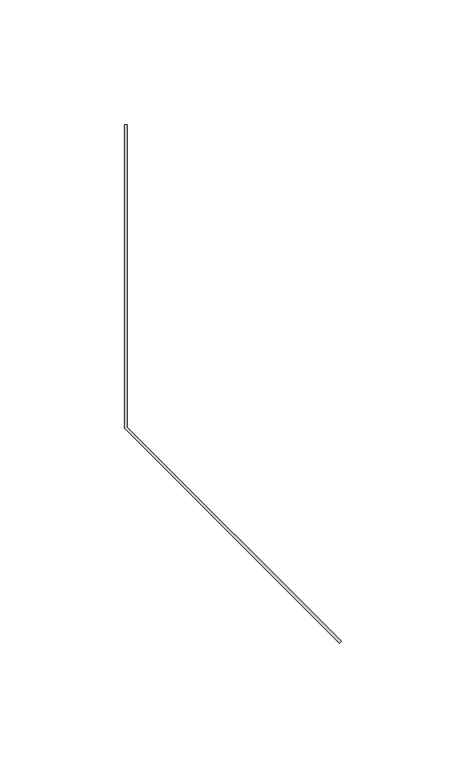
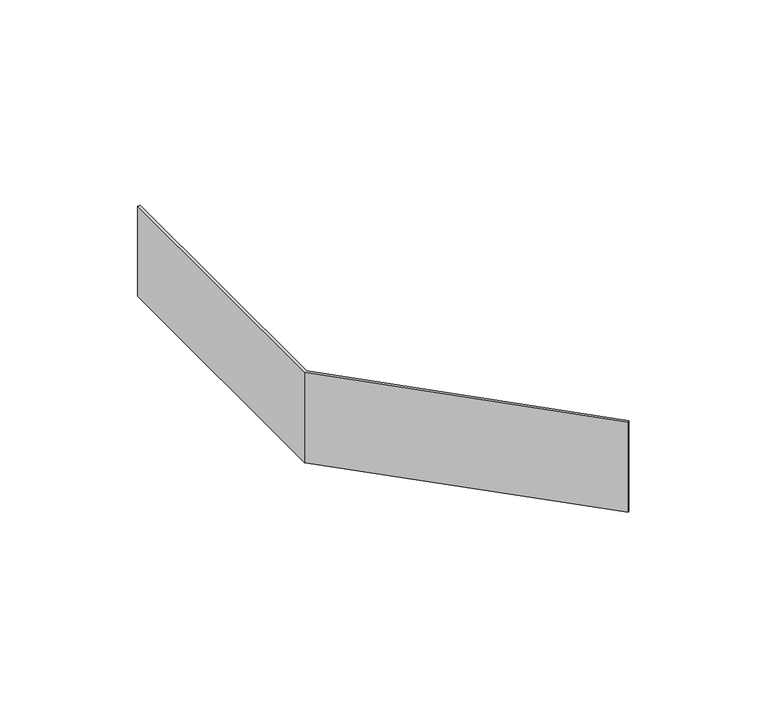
"""IFC4 building model written with IfcOpenShell, lengths in millimetres: proxy geometry, JUBPE-B_Juction_H60-Basorplast : Basorplast JUBPE-B 60."""

import ifcopenshell
import ifcopenshell.guid

model = None  # the IFC model being written
_history = None  # IfcOwnerHistory: only IFC2X3 demands one
_inside = {}  # id of a spatial element -> (the spatial element, [elements in it])
_under = {}  # id of a project, library or spatial element -> (it, [spatial elements below it])
_declared = {}  # id of a project -> (the project, [libraries it declares])
_typed = {}  # id of a type object -> (the type object, [elements of that type])
_made_of = {}  # id of a material, layer set ... -> (it, [elements and type objects made of it])


def new_model(schema):
    """Start an empty IFC model of exactly this schema.

    Asked for "IFC4X3", IfcOpenShell would pick the latest addendum, in which some entities
    have other attributes; the version numbers below select the first issue.
    IFC2X3 requires an IfcOwnerHistory on every rooted entity: one is made here for all.
    """
    global model, _history
    if schema == "IFC4X3":
        model = ifcopenshell.file(schema_version=(4, 3, 0, 0))
    else:
        model = ifcopenshell.file(schema=schema)
    _inside.clear()
    _under.clear()
    _declared.clear()
    _typed.clear()
    _made_of.clear()
    _history = None
    if model.schema == "IFC2X3":
        org = make("IfcOrganization", Name="unknown")
        user = make(
            "IfcPersonAndOrganization",
            ThePerson=make("IfcPerson", FamilyName="unknown"),
            TheOrganization=org,
        )
        app = make(
            "IfcApplication",
            ApplicationDeveloper=org,
            Version="unknown",
            ApplicationFullName="unknown",
            ApplicationIdentifier="unknown",
        )
        _history = make(
            "IfcOwnerHistory",
            OwningUser=user,
            OwningApplication=app,
            ChangeAction="ADDED",
            CreationDate=0,
        )
    return model


def make(cls, **values):
    """One entity of the class cls with the attributes given. An attribute that is None is left unset."""
    return model.create_entity(
        cls, **{name: value for name, value in values.items() if value is not None}
    )


def rooted(cls, **values):
    """An entity with a GlobalId (a new one), such as an element, a storey or a relation."""
    return make(cls, GlobalId=ifcopenshell.guid.new(), OwnerHistory=_history, **values)


def si_unit(unit_type, name, prefix=None):
    """IfcSIUnit, for example si_unit("LENGTHUNIT", "METRE", prefix="MILLI")."""
    return make("IfcSIUnit", UnitType=unit_type, Prefix=prefix, Name=name)


def assignment(units):
    """IfcUnitAssignment: the units of a project."""
    return None if units is None else make("IfcUnitAssignment", Units=units)


def point(xyz):
    """IfcCartesianPoint."""
    return None if xyz is None else make("IfcCartesianPoint", Coordinates=xyz)


def direction(xyz):
    """IfcDirection."""
    return None if xyz is None else make("IfcDirection", DirectionRatios=xyz)


def frame(location, z_axis=None, x_axis=None):
    """IfcAxis2Placement3D, a coordinate frame: its origin and axes. An axis left out is left unset."""
    return make(
        "IfcAxis2Placement3D",
        Location=point(location),
        Axis=direction(z_axis),
        RefDirection=direction(x_axis),
    )


def origin():
    """The frame at (0, 0, 0) with its axes left unset."""
    return frame((0.0, 0.0, 0.0))


def origin_with_axes():
    """The frame at (0, 0, 0) with the z axis (0, 0, 1) and the x axis (1, 0, 0) written out."""
    return frame((0.0, 0.0, 0.0), z_axis=(0.0, 0.0, 1.0), x_axis=(1.0, 0.0, 0.0))


def place(relative_to, where):
    """IfcLocalPlacement: puts the frame where relative to a parent placement (None: the world)."""
    return make(
        "IfcLocalPlacement", PlacementRelTo=relative_to, RelativePlacement=where
    )


def context(
    kind, dimensions, precision=None, world=None, true_north=None, identifier=None
):
    """IfcGeometricRepresentationContext, for example the 3D "Model" context."""
    return make(
        "IfcGeometricRepresentationContext",
        ContextIdentifier=identifier,
        ContextType=kind,
        CoordinateSpaceDimension=dimensions,
        Precision=precision,
        WorldCoordinateSystem=world,
        TrueNorth=true_north,
    )


def project(units=None, contexts=None):
    """IfcProject with its units and contexts."""
    return rooted(
        "IfcProject",
        Name="project",
        RepresentationContexts=contexts,
        UnitsInContext=assignment(units),
    )


def spatial(cls, under=None, at=None, **own):
    """A site, building, storey or space (cls), placed at a placement, below another one or the project."""
    s = rooted(cls, ObjectPlacement=at, **own)
    if under is not None:
        _under.setdefault(under.id(), (under, []))[1].append(s)
    return s


def polyline(points):
    """IfcPolyline through the points."""
    return make("IfcPolyline", Points=[point(p) for p in points])


def outline(outer, holes=None, kind="AREA"):
    """IfcArbitraryClosedProfileDef: a profile drawn as a closed curve; with holes, ...WithVoids."""
    if holes is None:
        return make("IfcArbitraryClosedProfileDef", ProfileType=kind, OuterCurve=outer)
    return make(
        "IfcArbitraryProfileDefWithVoids",
        ProfileType=kind,
        OuterCurve=outer,
        InnerCurves=holes,
    )


def extrude(swept, where, along, depth):
    """IfcExtrudedAreaSolid: the profile swept, set in the frame where, extruded along a direction by depth."""
    return make(
        "IfcExtrudedAreaSolid",
        SweptArea=swept,
        Position=where,
        ExtrudedDirection=direction(along),
        Depth=depth,
    )


def shape(context_of_items, identifier, shape_type, items):
    """IfcShapeRepresentation: the items that make up one representation, for example the "Body"."""
    return make(
        "IfcShapeRepresentation",
        ContextOfItems=context_of_items,
        RepresentationIdentifier=identifier,
        RepresentationType=shape_type,
        Items=items,
    )


def source(mapping_origin, context_of_items, identifier, shape_type, items):
    """IfcRepresentationMap: a shape defined once, which mapped items show again and again."""
    return make(
        "IfcRepresentationMap",
        MappingOrigin=mapping_origin,
        MappedRepresentation=shape(context_of_items, identifier, shape_type, items),
    )


def transform(
    local_origin,
    x_axis=None,
    y_axis=None,
    z_axis=None,
    scale=None,
    scale2=None,
    scale3=None,
    uniform=True,
):
    """IfcCartesianTransformationOperator3D, or its non-uniform kind. x_axis, y_axis, z_axis: its Axis1, 2, 3."""
    if uniform:
        return make(
            "IfcCartesianTransformationOperator3D",
            Axis1=direction(x_axis),
            Axis2=direction(y_axis),
            LocalOrigin=point(local_origin),
            Scale=scale,
            Axis3=direction(z_axis),
        )
    return make(
        "IfcCartesianTransformationOperator3DnonUniform",
        Axis1=direction(x_axis),
        Axis2=direction(y_axis),
        LocalOrigin=point(local_origin),
        Scale=scale,
        Axis3=direction(z_axis),
        Scale2=scale2,
        Scale3=scale3,
    )


def mapped(mapping_source, mapping_target):
    """IfcMappedItem: shows the shape of a source again, moved by a transform."""
    return make(
        "IfcMappedItem", MappingSource=mapping_source, MappingTarget=mapping_target
    )


def made_of(thing, what):
    """Note that an element or type object is made of a material, layer set ...; save() writes the relation."""
    if what is not None:
        _made_of.setdefault(what.id(), (what, []))[1].append(thing)
    return thing


def element(
    cls,
    number,
    at=None,
    inside=None,
    cuts=None,
    type_object=None,
    material=None,
    context=None,
    identifier="Body",
    shape_type=None,
    held_by="IfcProductDefinitionShape",
    body=None,
    shapes=None,
    **own,
):
    """One element of the class cls, such as IfcWall. Its Tag is "e" and its number.

    at: its placement. inside: the storey or other place that contains it. cuts: it is an
    opening in that element (IfcRelVoidsElement). A single representation is given by context,
    identifier, shape_type and body (its items); several are given by shapes. held_by: the class
    of the entity that holds the representations. save() writes the other relations.
    """
    e = rooted(cls, Tag="e%d" % number, ObjectPlacement=at, **own)
    if body is not None:
        shapes = [shape(context, identifier, shape_type, body)]
    if shapes is not None:
        e.Representation = make(held_by, Representations=shapes)
    if inside is not None:
        _inside.setdefault(inside.id(), (inside, []))[1].append(e)
    if cuts is not None:
        rooted(
            "IfcRelVoidsElement", RelatingBuildingElement=cuts, RelatedOpeningElement=e
        )
    if type_object is not None:
        _typed.setdefault(type_object.id(), (type_object, []))[1].append(e)
    return made_of(e, material)


def aggregate(whole, parts):
    """IfcRelAggregates: a whole, such as a stair, and the parts it consists of."""
    return rooted("IfcRelAggregates", RelatingObject=whole, RelatedObjects=parts)


def save(model, path):
    """Write the relations noted so far, then the file.

    IfcRelAggregates (storeys below a building ...), IfcRelContainedInSpatialStructure (elements
    in a storey), IfcRelDefinesByType, IfcRelAssociatesMaterial and IfcRelDeclares: one each for
    every whole, place, type object, material and project.
    """
    for whole, parts in _under.values():
        aggregate(whole, parts)
    for where, things in _inside.values():
        rooted(
            "IfcRelContainedInSpatialStructure",
            RelatedElements=things,
            RelatingStructure=where,
        )
    for kind, things in _typed.values():
        rooted("IfcRelDefinesByType", RelatedObjects=things, RelatingType=kind)
    for what, things in _made_of.values():
        rooted("IfcRelAssociatesMaterial", RelatedObjects=things, RelatingMaterial=what)
    for by, libraries in _declared.values():
        rooted("IfcRelDeclares", RelatingContext=by, RelatedDefinitions=libraries)
    model.write(path)


def generic_models_4e1091ae(model_context):
    return source(origin(), model_context, "Body", "SweptSolid", [
        extrude(outline(polyline([(0.0, 0.0), (1.0, 0.0), (1.0, -121.0), (86.7476886, -206.7476886), (86.0405818, -207.4547953), (0.0, -121.4142136), (0.0, 0.0)])), origin_with_axes(), (0.0, 0.0, 1.0), 40.0),
    ])


if __name__ == "__main__":
    model = new_model("IFC4")
    model_context = context("Model", 3, world=origin())
    ifc_project = project(units=[si_unit("LENGTHUNIT", "METRE", prefix="MILLI")], contexts=[model_context])
    site = spatial("IfcSite", under=ifc_project)
    building = spatial("IfcBuilding", under=site)
    placement = place(None, origin())
    generic_models_shape = generic_models_4e1091ae(model_context)
    element("IfcBuildingElementProxy", 1, Name="JUBPE-B_Juction_H60-Basorplast : Basorplast JUBPE-B 60", ObjectType="JUBPE-B_Juction_H60-Basorplast : Basorplast JUBPE-B 60", at=placement, inside=building, context=model_context, shape_type="MappedRepresentation", body=[
        mapped(generic_models_shape, transform((0.0, 0.0, 0.0), x_axis=(1.0, 0.0, 0.0), y_axis=(0.0, 1.0, 0.0), z_axis=(0.0, 0.0, 1.0))),
    ])
    save(model, "model.ifc")
